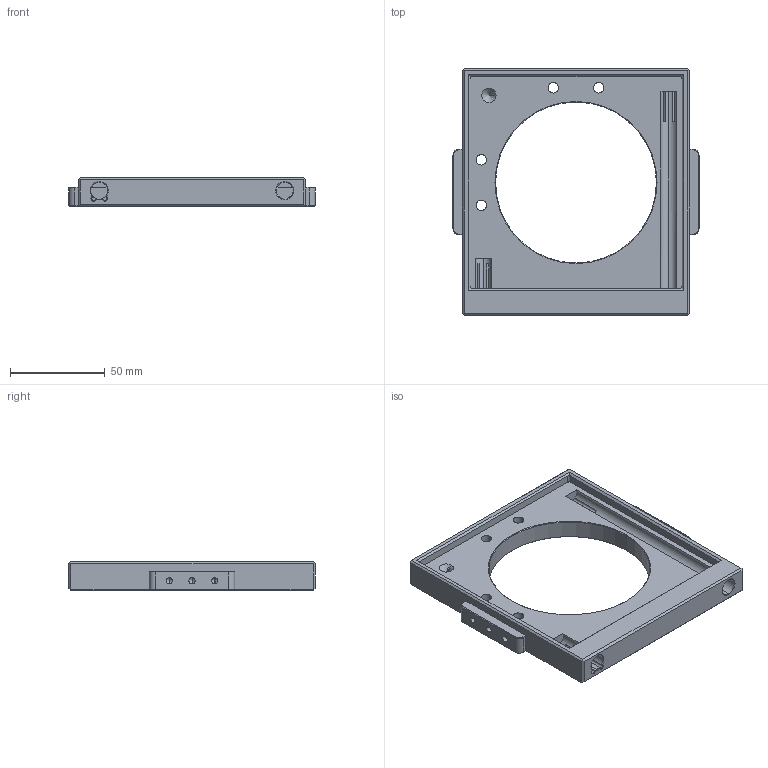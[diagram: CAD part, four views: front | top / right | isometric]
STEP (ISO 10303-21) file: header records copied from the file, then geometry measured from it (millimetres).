
FILE_DESCRIPTION (( 'STEP AP203' ), '1' );
FILE_NAME ('三英寸定板.STEP', '2026-10-09T06:12:34', ( '' ), ( '' ), 'SwSTEP 2.0', 'SolidWorks 2024', '' );
FILE_SCHEMA (( 'CONFIG_CONTROL_DESIGN' ));
Length unit declared in the file: millimetre
Products named in the file (1): 三英寸定板
Bounding box: 130 x 130 x 15 mm (x, y, z)
Volume: 108796.4 mm3; surface area: 35868.8 mm2
Topology: 1 solids, 1 shells, 182 faces, 483 edges, 291 vertices
Faces by surface type: plane 85, cone 50, cylinder 47
Entity records: 5626 total; most frequent: CARTESIAN_POINT 1027, DIRECTION 967, ORIENTED_EDGE 938, EDGE_CURVE 469, AXIS2_PLACEMENT_3D 343, VERTEX_POINT 291, VECTOR 281, LINE 281
